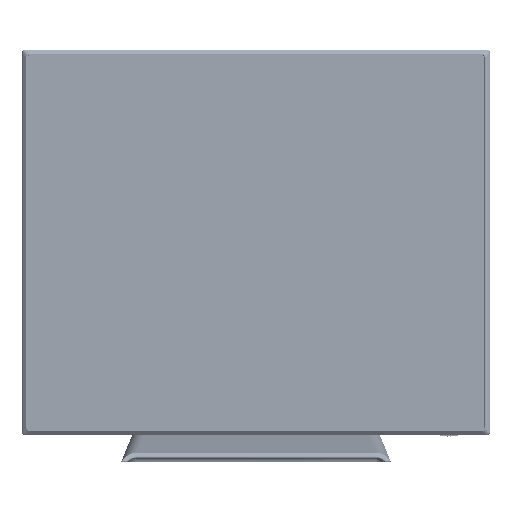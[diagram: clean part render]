
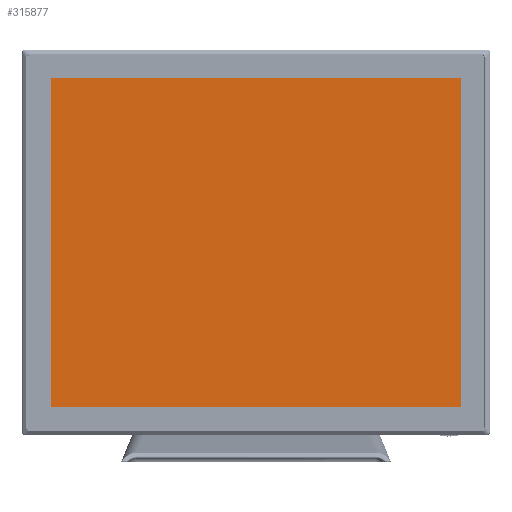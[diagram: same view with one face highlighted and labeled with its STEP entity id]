
A CAD part, top view. The second image highlights one B-rep face of the part: STEP entity #315877.
In plain terms, the highlighted planar face has unit normal (0, 0, 1).
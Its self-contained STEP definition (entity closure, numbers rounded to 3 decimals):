
#41612 = CARTESIAN_POINT ( 'NONE',  ( -169.46, -135.668, -62.4 ) ) ;
#44779 = EDGE_CURVE ( 'NONE', #459756, #513453, #106883, .T. ) ;
#64590 = VECTOR ( 'NONE', #105726, 1000. ) ;
#72370 = EDGE_CURVE ( 'NONE', #292214, #459756, #153245, .T. ) ;
#105726 = DIRECTION ( 'NONE',  ( -1., 0., 0. ) ) ;
#105827 = ORIENTED_EDGE ( 'NONE', *, *, #72370, .F. ) ;
#106883 = LINE ( 'NONE', #395312, #187151 ) ;
#113463 = ORIENTED_EDGE ( 'NONE', *, *, #137046, .F. ) ;
#124025 = CARTESIAN_POINT ( 'NONE',  ( 169.46, 135.668, -62.4 ) ) ;
#125574 = VERTEX_POINT ( 'NONE', #413925 ) ;
#137046 = EDGE_CURVE ( 'NONE', #513453, #125574, #257494, .T. ) ;
#145365 = DIRECTION ( 'NONE',  ( 0., 1., 0. ) ) ;
#153245 = LINE ( 'NONE', #276119, #169811 ) ;
#164100 = FACE_OUTER_BOUND ( 'NONE', #447674, .T. ) ;
#169336 = DIRECTION ( 'NONE',  ( 0., 0., -1. ) ) ;
#169811 = VECTOR ( 'NONE', #145365, 1000. ) ;
#179968 = DIRECTION ( 'NONE',  ( 0., -1., 0. ) ) ;
#187151 = VECTOR ( 'NONE', #467595, 1000. ) ;
#198902 = PLANE ( 'NONE',  #201504 ) ;
#201504 = AXIS2_PLACEMENT_3D ( 'NONE', #124025, #169336, #281708 ) ;
#257494 = LINE ( 'NONE', #463193, #510558 ) ;
#276119 = CARTESIAN_POINT ( 'NONE',  ( -169.46, 0., -62.4 ) ) ;
#281708 = DIRECTION ( 'NONE',  ( 0., -1., 0. ) ) ;
#292214 = VERTEX_POINT ( 'NONE', #41612 ) ;
#308723 = LINE ( 'NONE', #471670, #64590 ) ;
#315877 = ADVANCED_FACE ( 'NONE', ( #164100 ), #198902, .F. ) ;
#318083 = CARTESIAN_POINT ( 'NONE',  ( 169.46, 135.668, -62.4 ) ) ;
#322423 = EDGE_CURVE ( 'NONE', #125574, #292214, #308723, .T. ) ;
#382997 = ORIENTED_EDGE ( 'NONE', *, *, #322423, .F. ) ;
#395312 = CARTESIAN_POINT ( 'NONE',  ( 0., 135.668, -62.4 ) ) ;
#413925 = CARTESIAN_POINT ( 'NONE',  ( 169.46, -135.668, -62.4 ) ) ;
#417754 = CARTESIAN_POINT ( 'NONE',  ( -169.46, 135.668, -62.4 ) ) ;
#447674 = EDGE_LOOP ( 'NONE', ( #113463, #503945, #105827, #382997 ) ) ;
#459756 = VERTEX_POINT ( 'NONE', #417754 ) ;
#463193 = CARTESIAN_POINT ( 'NONE',  ( 169.46, 0., -62.4 ) ) ;
#467595 = DIRECTION ( 'NONE',  ( 1., 0., 0. ) ) ;
#471670 = CARTESIAN_POINT ( 'NONE',  ( 0., -135.668, -62.4 ) ) ;
#503945 = ORIENTED_EDGE ( 'NONE', *, *, #44779, .F. ) ;
#510558 = VECTOR ( 'NONE', #179968, 1000. ) ;
#513453 = VERTEX_POINT ( 'NONE', #318083 ) ;
